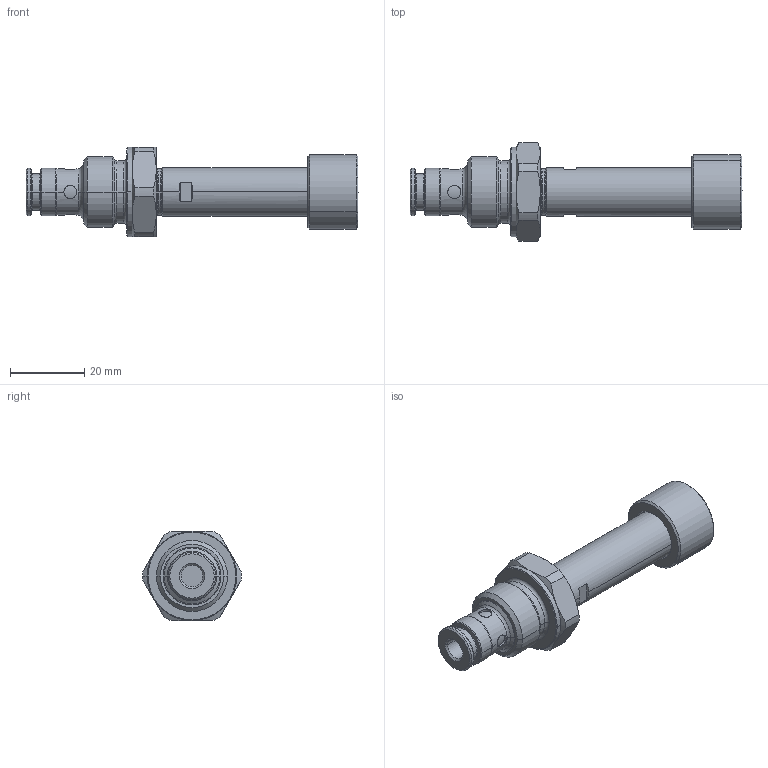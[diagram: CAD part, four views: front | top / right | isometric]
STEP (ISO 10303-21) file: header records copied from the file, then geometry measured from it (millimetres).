
FILE_DESCRIPTION (( 'STEP AP214' ), '1' );
FILE_NAME ('SDEPU08-AB.STEP', '2016-02-02T14:26:53', ( '' ), ( '' ), 'SwSTEP 2.0', 'SolidWorks 2014', '' );
FILE_SCHEMA (( 'AUTOMOTIVE_DESIGN' ));
Length unit declared in the file: millimetre
Products named in the file (2): SDEPU08-AB
Bounding box: 89.15 x 26.5 x 24 mm (x, y, z)
Volume: 18233.8 mm3; surface area: 5948.6 mm2
Topology: 1 solids, 1 shells, 135 faces, 298 edges, 173 vertices
Faces by surface type: cone 52, cylinder 44, plane 21, torus 18
Entity records: 4173 total; most frequent: CARTESIAN_POINT 1176, DIRECTION 660, ORIENTED_EDGE 592, EDGE_CURVE 296, AXIS2_PLACEMENT_3D 281, VERTEX_POINT 173, EDGE_LOOP 145, CIRCLE 144
